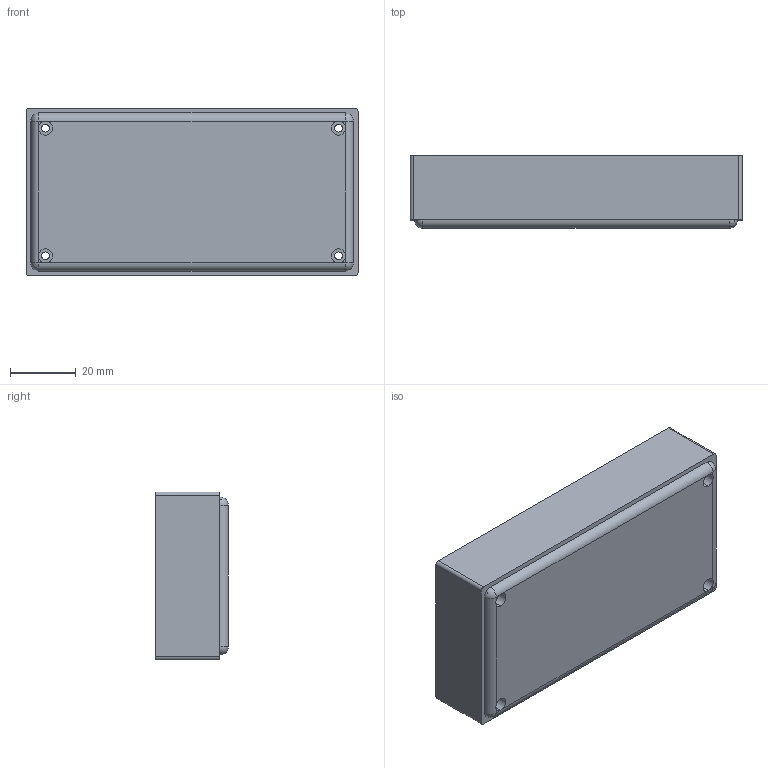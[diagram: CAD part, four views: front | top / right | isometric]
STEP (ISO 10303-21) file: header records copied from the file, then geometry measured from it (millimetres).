
FILE_DESCRIPTION (( 'STEP AP214' ), '1' );
FILE_NAME ('Cuerpo PP41.STEP', '2016-10-07T10:31:44', ( 'aaa' ), ( '' ), 'SwSTEP 2.0', 'SolidWorks 2013', '' );
FILE_SCHEMA (( 'AUTOMOTIVE_DESIGN' ));
Length unit declared in the file: millimetre
Products named in the file (1): Cuerpo PP41
Bounding box: 100.8 x 22 x 51 mm (x, y, z)
Volume: 23938.8 mm3; surface area: 24676.6 mm2
Topology: 1 solids, 1 shells, 84 faces, 204 edges, 132 vertices
Faces by surface type: cylinder 48, plane 32, sphere 4
Entity records: 2554 total; most frequent: CARTESIAN_POINT 469, DIRECTION 462, ORIENTED_EDGE 400, EDGE_CURVE 200, AXIS2_PLACEMENT_3D 189, VERTEX_POINT 132, EDGE_LOOP 106, CIRCLE 104
